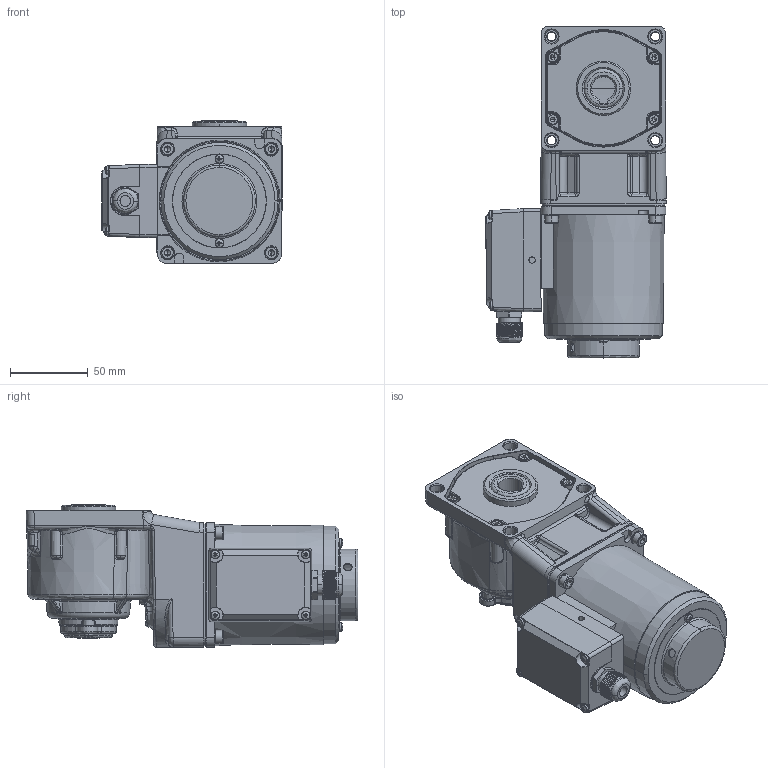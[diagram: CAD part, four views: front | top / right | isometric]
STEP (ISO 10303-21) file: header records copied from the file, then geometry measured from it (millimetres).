
FILE_DESCRIPTION (( 'STEP AP203' ), '1' );
FILE_NAME ('4IK25RGN-CT(4GN3RC-180RC)ÐÂ.STEP', '2022-02-25T06:50:45', ( 'PC' ), ( 'Microsoft' ), 'SwSTEP 2.0', 'SolidWorks 2014', '' );
FILE_SCHEMA (( 'CONFIG_CONTROL_DESIGN' ));
Length unit declared in the file: millimetre
Products named in the file (21): 3ik15ra-c_asm(2)^70TSZ.STEP; TSJXH^70TSJXHG(2)_70TSJXHG.STEP.STEP; 70TSZ.STEP; M14SJQ^70TSJXHG(2)_70TSJXHG.STEP.STEP; 80綴傷裔; 80TSJXHJK.STEP; M3^70TSJXHG(2)_70TSJXHG.STEP.STEP; zd-4gn1000rc-504-001-20211209（实心外形）; 4IK25RGN-CT.STEP; 70TSJXHG(2)^70TSJXHG.STEP.STEP; cross recessed pan head screws gb_GB_CROSS_SCREWS_TYPE1 M3X6-6  H type-N; 4IK25RGN-CT; 70TSJXHG.STEP.STEP; 80眻褒眊裔; 4IK25RGN-CT(4GN3RC-180RC)陔; 3IK15RA-C_AF0^3ik15ra-c_asm(2)_70TSZ.STEP; 80諾陑怀堤粣; PRT0099^3ik15ra-c_asm(2)_70TSZ.STEP; hexagon socket head cap screws gb_GB_FASTENER_SCREWS_HSHCS M4X12-N; PRT0101^3ik15ra-c_asm(2)_70TSZ.STEP; M5X20-S^4ik25gn-c-4gn3-180rc_asm(2)_80RC
Assembly tree (30 placements, depth 6):
  4IK25RGN-CT(4GN3RC-180RC)陔
    80綴傷裔
    zd-4gn1000rc-504-001-20211209（实心外形）
    cross recessed pan head screws gb_GB_CROSS_SCREWS_TYPE1 M3X6-6  H type-N  x2
    80眻褒眊裔
    80諾陑怀堤粣
    hexagon socket head cap screws gb_GB_FASTENER_SCREWS_HSHCS M4X12-N  x4
    M5X20-S^4ik25gn-c-4gn3-180rc_asm(2)_80RC  x4
    4IK25RGN-CT
      4IK25RGN-CT.STEP
        70TSJXHG.STEP.STEP
          70TSJXHG(2)^70TSJXHG.STEP.STEP
            TSJXH^70TSJXHG(2)_70TSJXHG.STEP.STEP
            M14SJQ^70TSJXHG(2)_70TSJXHG.STEP.STEP
            M3^70TSJXHG(2)_70TSJXHG.STEP.STEP  x4
        70TSZ.STEP
          3ik15ra-c_asm(2)^70TSZ.STEP
            3IK15RA-C_AF0^3ik15ra-c_asm(2)_70TSZ.STEP
            PRT0099^3ik15ra-c_asm(2)_70TSZ.STEP
            PRT0101^3ik15ra-c_asm(2)_70TSZ.STEP
        80TSJXHJK.STEP
Bounding box: 115.74 x 212.72 x 91.5 mm (x, y, z)
Volume: 733415.6 mm3; surface area: 179154.6 mm2
Topology: 24 solids, 26 shells, 3307 faces, 7543 edges, 4274 vertices
Faces by surface type: cone 1259, cylinder 1003, plane 523, bspline 448, torus 54, sphere 20
Entity records: 94330 total; most frequent: CARTESIAN_POINT 48548, ORIENTED_EDGE 9634, DIRECTION 8256, EDGE_CURVE 4817, AXIS2_PLACEMENT_3D 3278, VERTEX_POINT 2850, EDGE_LOOP 2183, FACE_OUTER_BOUND 2070
